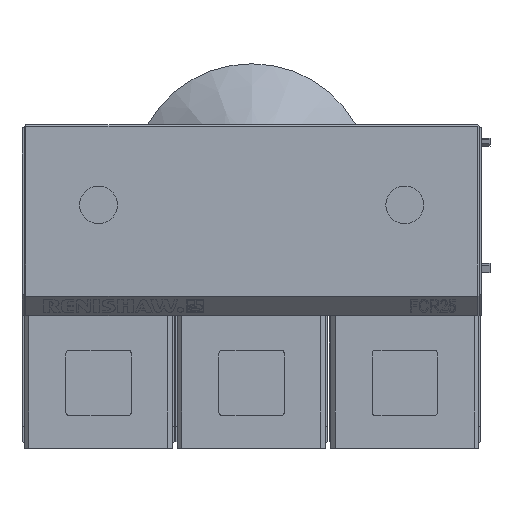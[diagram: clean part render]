
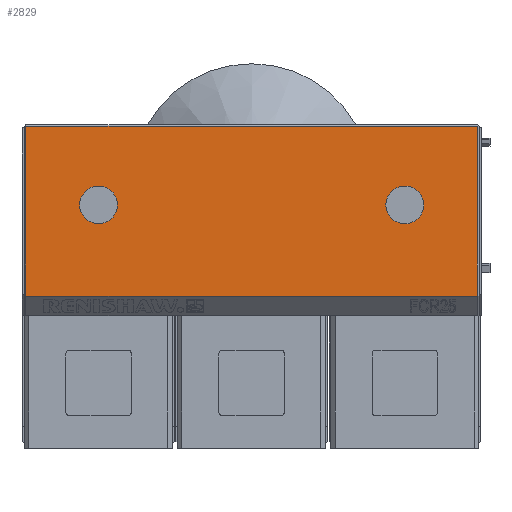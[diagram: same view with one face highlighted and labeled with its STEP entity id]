
A CAD part, top view. The second image highlights one B-rep face of the part: STEP entity #2829.
In plain terms, the highlighted planar face has unit normal (0, 0, 1).
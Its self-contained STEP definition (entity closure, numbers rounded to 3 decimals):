
#2288=FACE_BOUND('',#4048,.T.);
#2289=FACE_BOUND('',#4049,.T.);
#2290=FACE_BOUND('',#4050,.T.);
#2417=CIRCLE('',#11281,4.35);
#2418=CIRCLE('',#11283,4.35);
#2829=ADVANCED_FACE('',(#2288,#2289,#2290),#3192,.T.);
#3192=PLANE('',#11289);
#4048=EDGE_LOOP('',(#6517));
#4049=EDGE_LOOP('',(#6518));
#4050=EDGE_LOOP('',(#6519,#6520,#6521,#6522));
#6517=ORIENTED_EDGE('',*,*,#8657,.F.);
#6518=ORIENTED_EDGE('',*,*,#8658,.F.);
#6519=ORIENTED_EDGE('',*,*,#8659,.T.);
#6520=ORIENTED_EDGE('',*,*,#8661,.T.);
#6521=ORIENTED_EDGE('',*,*,#8663,.T.);
#6522=ORIENTED_EDGE('',*,*,#8664,.T.);
#7417=VERTEX_POINT('',#16637);
#7424=VERTEX_POINT('',#16661);
#7425=VERTEX_POINT('',#16665);
#7426=VERTEX_POINT('',#16668);
#7427=VERTEX_POINT('',#16673);
#7428=VERTEX_POINT('',#16677);
#8657=EDGE_CURVE('',#7425,#7425,#2417,.T.);
#8658=EDGE_CURVE('',#7426,#7426,#2418,.T.);
#8659=EDGE_CURVE('',#7424,#7417,#9694,.T.);
#8661=EDGE_CURVE('',#7417,#7427,#9696,.T.);
#8663=EDGE_CURVE('',#7427,#7428,#9698,.T.);
#8664=EDGE_CURVE('',#7428,#7424,#9699,.T.);
#9694=LINE('',#16670,#10729);
#9696=LINE('',#16674,#10731);
#9698=LINE('',#16678,#10733);
#9699=LINE('',#16680,#10734);
#10729=VECTOR('',#13419,1.);
#10731=VECTOR('',#13423,1.);
#10733=VECTOR('',#13427,1.);
#10734=VECTOR('',#13430,1.);
#11281=AXIS2_PLACEMENT_3D('',#16664,#13411,#13412);
#11283=AXIS2_PLACEMENT_3D('',#16667,#13415,#13416);
#11289=AXIS2_PLACEMENT_3D('',#16682,#13433,#13434);
#13411=DIRECTION('',(0.,0.,1.));
#13412=DIRECTION('',(0.,-1.,0.));
#13415=DIRECTION('',(0.,0.,1.));
#13416=DIRECTION('',(0.,-1.,0.));
#13419=DIRECTION('',(1.,0.,0.));
#13423=DIRECTION('',(0.,1.,0.));
#13427=DIRECTION('',(-1.,0.,0.));
#13430=DIRECTION('',(0.,-1.,0.));
#13433=DIRECTION('',(0.,0.,1.));
#13434=DIRECTION('',(0.,-1.,0.));
#16637=CARTESIAN_POINT('',(87.225,21.75,18.21));
#16661=CARTESIAN_POINT('',(-16.725,21.75,18.21));
#16664=CARTESIAN_POINT('',(70.5,42.75,18.21));
#16665=CARTESIAN_POINT('',(70.5,38.4,18.21));
#16667=CARTESIAN_POINT('',(0.,42.75,18.21));
#16668=CARTESIAN_POINT('',(0.,38.4,18.21));
#16670=CARTESIAN_POINT('',(35.25,21.75,18.21));
#16673=CARTESIAN_POINT('',(87.225,60.85,18.21));
#16674=CARTESIAN_POINT('',(87.225,60.85,18.21));
#16677=CARTESIAN_POINT('',(-16.725,60.85,18.21));
#16678=CARTESIAN_POINT('',(35.25,60.85,18.21));
#16680=CARTESIAN_POINT('',(-16.725,21.75,18.21));
#16682=CARTESIAN_POINT('',(35.25,39.25,18.21));
